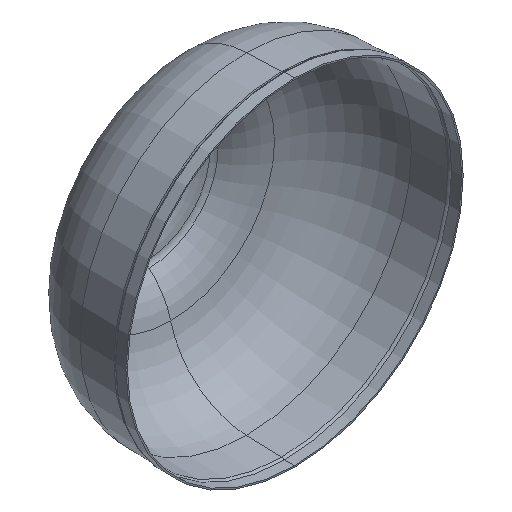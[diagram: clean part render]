
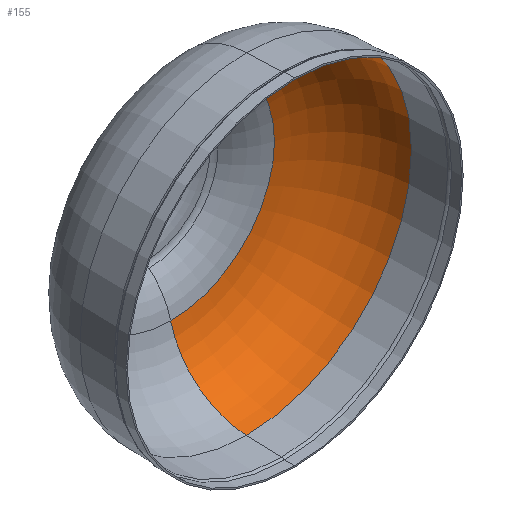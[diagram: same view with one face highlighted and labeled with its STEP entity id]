
A CAD part, isometric view. The second image highlights one B-rep face of the part: STEP entity #155.
In plain terms, the highlighted toroidal (fillet/blend) face has major radius 87.208 mm and minor radius 84.069 mm.
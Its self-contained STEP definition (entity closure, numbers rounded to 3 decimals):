
#25 = CARTESIAN_POINT ( 'NONE',  ( 0., 128.545, -107.708 ) ) ;
#34 = EDGE_CURVE ( 'NONE', #1248, #480, #786, .T. ) ;
#57 = EDGE_CURVE ( 'NONE', #1248, #695, #563, .T. ) ;
#121 = DIRECTION ( 'NONE',  ( 1., 0., 0. ) ) ;
#147 = DIRECTION ( 'NONE',  ( 0., 0., -1. ) ) ;
#155 = ADVANCED_FACE ( 'NONE', ( #841 ), #666, .F. ) ;
#168 = DIRECTION ( 'NONE',  ( 0., 0., -1. ) ) ;
#205 = CARTESIAN_POINT ( 'NONE',  ( 0., 47.014, 87.208 ) ) ;
#271 = ORIENTED_EDGE ( 'NONE', *, *, #1268, .F. ) ;
#289 = AXIS2_PLACEMENT_3D ( 'NONE', #205, #121, #901 ) ;
#308 = CARTESIAN_POINT ( 'NONE',  ( 0., 128.545, 107.708 ) ) ;
#356 = CIRCLE ( 'NONE', #1253, 171.226 ) ;
#378 = DIRECTION ( 'NONE',  ( 0., 0., 1. ) ) ;
#407 = ORIENTED_EDGE ( 'NONE', *, *, #34, .F. ) ;
#480 = VERTEX_POINT ( 'NONE', #308 ) ;
#563 = CIRCLE ( 'NONE', #1205, 84.069 ) ;
#579 = CARTESIAN_POINT ( 'NONE',  ( 0., 49.948, 171.226 ) ) ;
#642 = ORIENTED_EDGE ( 'NONE', *, *, #1266, .T. ) ;
#653 = CARTESIAN_POINT ( 'NONE',  ( 0., 47.014, 0. ) ) ;
#666 = TOROIDAL_SURFACE ( 'NONE', #1043, 87.208, 84.069 ) ;
#684 = ORIENTED_EDGE ( 'NONE', *, *, #57, .T. ) ;
#695 = VERTEX_POINT ( 'NONE', #792 ) ;
#782 = DIRECTION ( 'NONE',  ( 0., -1., 0. ) ) ;
#786 = CIRCLE ( 'NONE', #956, 107.708 ) ;
#792 = CARTESIAN_POINT ( 'NONE',  ( 0., 49.948, -171.226 ) ) ;
#830 = EDGE_LOOP ( 'NONE', ( #271, #407, #684, #642 ) ) ;
#841 = FACE_OUTER_BOUND ( 'NONE', #830, .T. ) ;
#854 = DIRECTION ( 'NONE',  ( 0., -1., 0. ) ) ;
#857 = CIRCLE ( 'NONE', #289, 84.069 ) ;
#901 = DIRECTION ( 'NONE',  ( 0., 0., -1. ) ) ;
#956 = AXIS2_PLACEMENT_3D ( 'NONE', #1057, #854, #168 ) ;
#959 = CARTESIAN_POINT ( 'NONE',  ( 0., 47.014, -87.208 ) ) ;
#973 = DIRECTION ( 'NONE',  ( -1., 0., 0. ) ) ;
#1005 = CARTESIAN_POINT ( 'NONE',  ( 0., 49.948, 0. ) ) ;
#1043 = AXIS2_PLACEMENT_3D ( 'NONE', #653, #1251, #147 ) ;
#1057 = CARTESIAN_POINT ( 'NONE',  ( 0., 128.545, 0. ) ) ;
#1100 = VERTEX_POINT ( 'NONE', #579 ) ;
#1174 = DIRECTION ( 'NONE',  ( 0., 0., -1. ) ) ;
#1205 = AXIS2_PLACEMENT_3D ( 'NONE', #959, #973, #378 ) ;
#1248 = VERTEX_POINT ( 'NONE', #25 ) ;
#1251 = DIRECTION ( 'NONE',  ( 0., -1., 0. ) ) ;
#1253 = AXIS2_PLACEMENT_3D ( 'NONE', #1005, #782, #1174 ) ;
#1266 = EDGE_CURVE ( 'NONE', #695, #1100, #356, .T. ) ;
#1268 = EDGE_CURVE ( 'NONE', #480, #1100, #857, .T. ) ;
